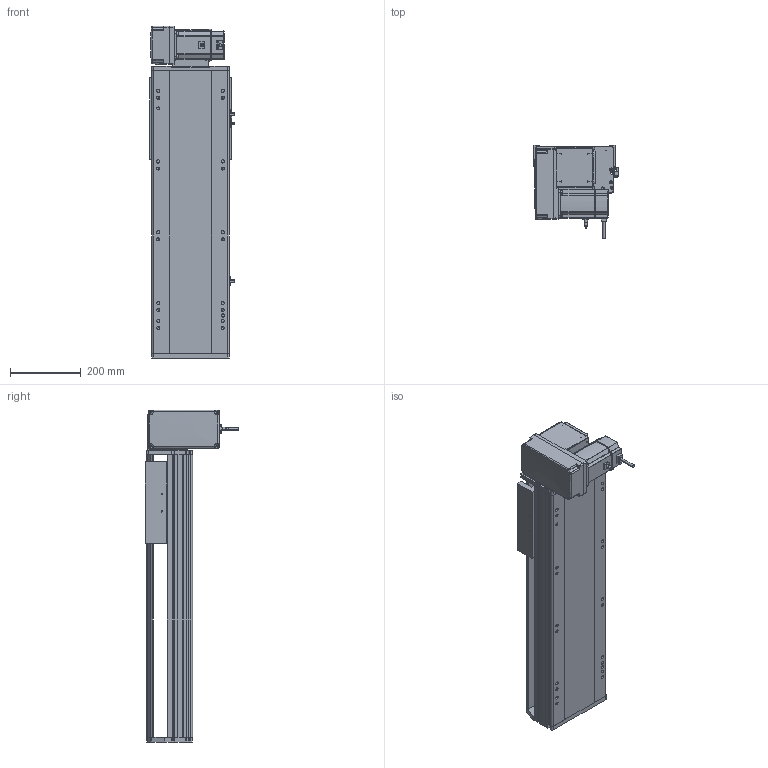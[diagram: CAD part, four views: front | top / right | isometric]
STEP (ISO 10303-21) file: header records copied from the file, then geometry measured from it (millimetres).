
FILE_DESCRIPTION (( 'STEP AP214' ), '1' );
FILE_NAME ('RTB22S-XX-450-LM-M75-C4.STEP', '2025-12-12T03:46:45', ( '' ), ( '' ), 'SwSTEP 2.0', 'SolidWorks 2018', '' );
FILE_SCHEMA (( 'AUTOMOTIVE_DESIGN' ));
Length unit declared in the file: millimetre
Products named in the file (14): OMRON EE-SX672 传感器^RTB22S-XX-XX-LM-M75-C4; RTB22S-GY-005P^RMP22S-LM-々湍釱蚾饜_RTB22S-XX-XX-LM-M75-C4; RTB22S-GY-018P^RMP22S-LM-々湍釱蚾饜_RTB22S-XX-XX-LM-M75-C4; RTB22S-GY-014--々湍釱^RMP22S-LM-々湍釱蚾饜_RTB22S-XX-XX-LM-M75-C4; 750W萇儂^RTB22S-XX-XX-LM-M75-C4; RTB22S-L-004賑釱^RTB22S-XX-XX-LM-M75-C4; RTB22S-L-011菁釱^RTB22S-XX-XX-LM-M75-C4; RTB22S-GY-001耜裔^RTB22S-XX-XX-LM-M75-C4; RTH22-GY-013外置感应片^RTB22S-XX-XX-LM-M75-C4; RMP22S-LM-々湍釱蚾饜^RTB22S-XX-XX-LM-M75-C4; RTB22S-XX-450-LM-M75-C4; RTB22S-GY-007奻裔^RTB22S-XX-XX-LM-M75-C4; RTB22S-GY-017P^RMP22S-LM-々湍釱蚾饜_RTB22S-XX-XX-LM-M75-C4; RTB22S-GY-008-M75--萇儂啣^RMP22S-LM-々湍釱蚾饜_RTB22S-XX-XX-LM-M75-C4
Assembly tree (16 placements, depth 3):
  RTB22S-XX-450-LM-M75-C4
    RTB22S-L-011菁釱^RTB22S-XX-XX-LM-M75-C4
    RTB22S-GY-001耜裔^RTB22S-XX-XX-LM-M75-C4
    750W萇儂^RTB22S-XX-XX-LM-M75-C4
    RTB22S-GY-007奻裔^RTB22S-XX-XX-LM-M75-C4
    RTB22S-L-004賑釱^RTB22S-XX-XX-LM-M75-C4
    RTH22-GY-013外置感应片^RTB22S-XX-XX-LM-M75-C4
    OMRON EE-SX672 传感器^RTB22S-XX-XX-LM-M75-C4  x3
    RMP22S-LM-々湍釱蚾饜^RTB22S-XX-XX-LM-M75-C4
      RTB22S-GY-014--々湍釱^RMP22S-LM-々湍釱蚾饜_RTB22S-XX-XX-LM-M75-C4
      RTB22S-GY-017P^RMP22S-LM-々湍釱蚾饜_RTB22S-XX-XX-LM-M75-C4  x2
      RTB22S-GY-005P^RMP22S-LM-々湍釱蚾饜_RTB22S-XX-XX-LM-M75-C4
      RTB22S-GY-008-M75--萇儂啣^RMP22S-LM-々湍釱蚾饜_RTB22S-XX-XX-LM-M75-C4
      RTB22S-GY-018P^RMP22S-LM-々湍釱蚾饜_RTB22S-XX-XX-LM-M75-C4
Bounding box: 238.5 x 264.7 x 937.5 mm (x, y, z)
Volume: 14877943.2 mm3; surface area: 1576727.2 mm2
Topology: 15 solids, 15 shells, 1929 faces, 5236 edges, 3362 vertices
Faces by surface type: plane 909, cylinder 586, bspline 296, cone 126, sphere 8, torus 4
Entity records: 50794 total; most frequent: CARTESIAN_POINT 14728, ORIENTED_EDGE 7284, DIRECTION 6956, EDGE_CURVE 3642, AXIS2_PLACEMENT_3D 2434, VERTEX_POINT 2366, LINE 2088, VECTOR 2088
